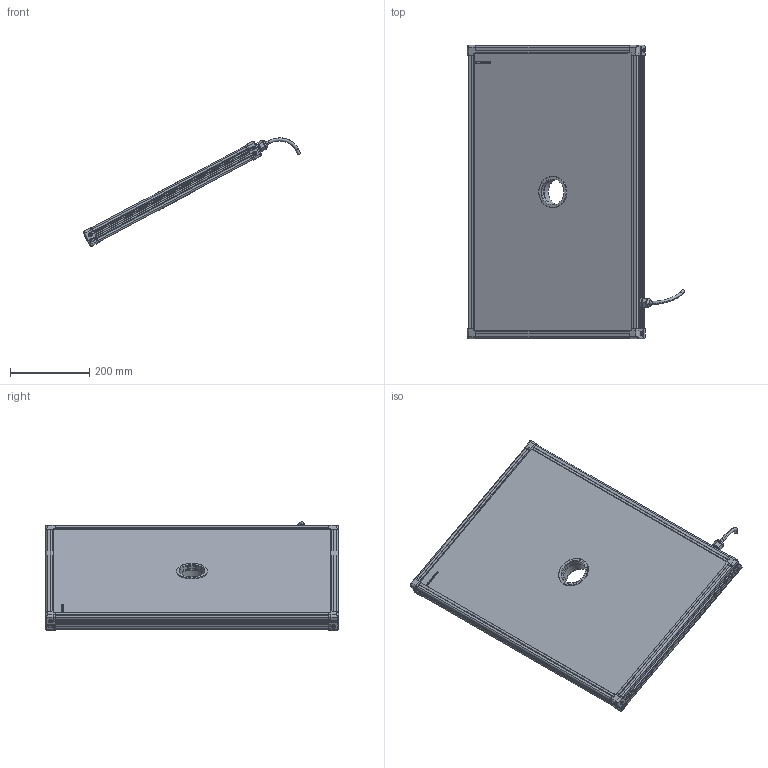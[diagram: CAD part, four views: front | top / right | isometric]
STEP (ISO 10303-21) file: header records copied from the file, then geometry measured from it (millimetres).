
FILE_DESCRIPTION (( 'STEP AP214' ), '1' );
FILE_NAME ('EFFI-FD-450-700-ZZZ-1M12P.STEP', '2021-06-24T07:59:48', ( '' ), ( '' ), 'SwSTEP 2.0', 'SolidWorks 2021', '' );
FILE_SCHEMA (( 'AUTOMOTIVE_DESIGN' ));
Length unit declared in the file: millimetre
Products named in the file (13): profile Y_PERCE; Assemblage Ø65; profile X_PERCE; M12 power_AVEC CABLE D8.1; 000629; petite joue + vis; 004409; EFFI-FD-450-700-ZZZ-1M12P; 000590; 004408; Pièce13^EFFI-FD-XXX-YYY-ZZZ (1 connecteur) M12POWER Ø65; petite joue
Assembly tree (19 placements, depth 3):
  EFFI-FD-450-700-ZZZ-1M12P
    profile X_PERCE  x2
    profile Y_PERCE
    profile Y_PERCE
    Pièce13^EFFI-FD-XXX-YYY-ZZZ (1 connecteur) M12POWER Ø65
    petite joue + vis  x4
      petite joue
      000629
    M12 power_AVEC CABLE D8.1
    Assemblage Ø65
      004408
      004409
      000590  x3
Bounding box: 547.2 x 739 x 273.28 mm (x, y, z)
Volume: 12417902.7 mm3; surface area: 1117818.4 mm2
Topology: 22 solids, 25 shells, 3951 faces, 10520 edges, 6907 vertices
Faces by surface type: plane 2447, cylinder 720, bspline 591, cone 156, torus 29, sphere 8
Entity records: 56000 total; most frequent: CARTESIAN_POINT 22561, ORIENTED_EDGE 7014, DIRECTION 5746, EDGE_CURVE 3509, LINE 2458, VECTOR 2458, VERTEX_POINT 2308, AXIS2_PLACEMENT_3D 1644
